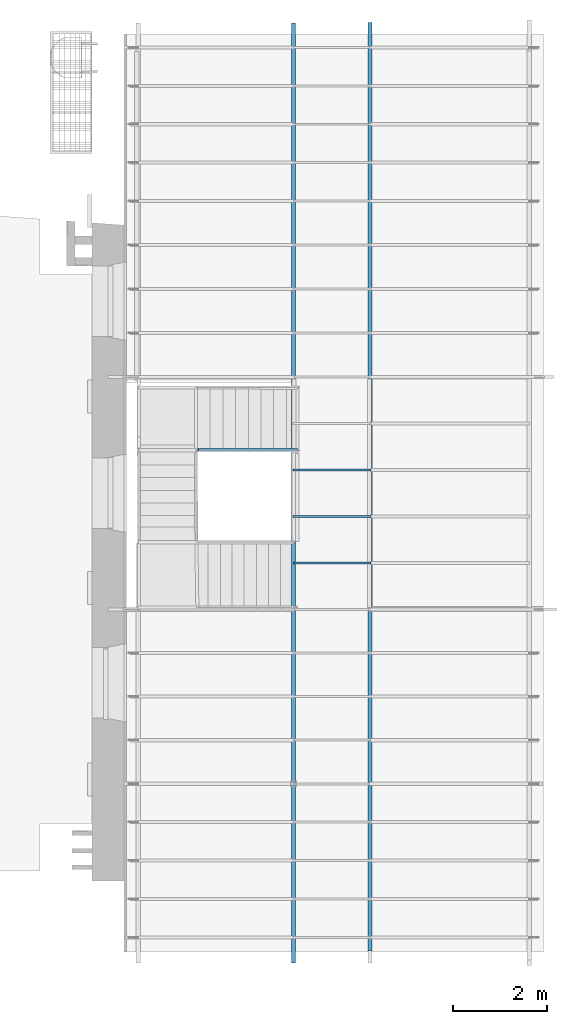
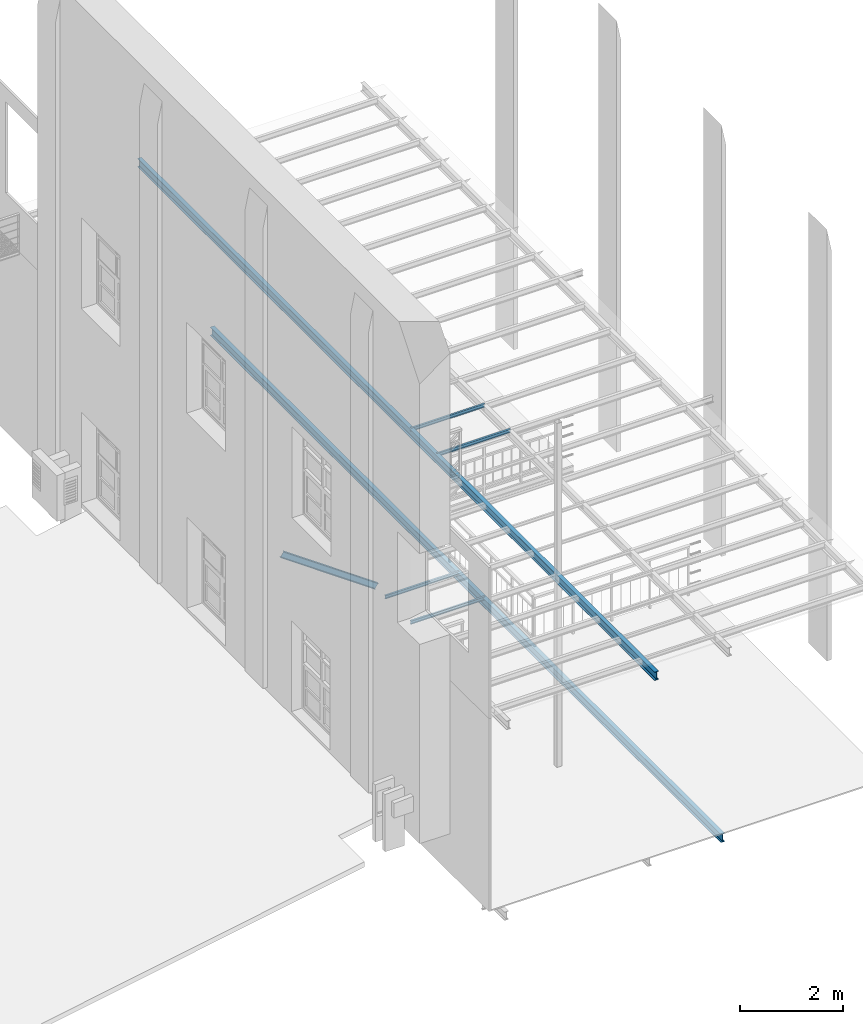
# One storey, part 13 of 33: 7 beams.
"""IFC2X3 building model written with IfcOpenShell, lengths in metres."""

import ifcopenshell
import ifcopenshell.guid

model = None  # the IFC model being written
_history = None  # IfcOwnerHistory: only IFC2X3 demands one
_inside = {}  # id of a spatial element -> (the spatial element, [elements in it])
_under = {}  # id of a project, library or spatial element -> (it, [spatial elements below it])
_declared = {}  # id of a project -> (the project, [libraries it declares])
_typed = {}  # id of a type object -> (the type object, [elements of that type])
_made_of = {}  # id of a material, layer set ... -> (it, [elements and type objects made of it])


def new_model(schema):
    """Start an empty IFC model of exactly this schema.

    Asked for "IFC4X3", IfcOpenShell would pick the latest addendum, in which some entities
    have other attributes; the version numbers below select the first issue.
    IFC2X3 requires an IfcOwnerHistory on every rooted entity: one is made here for all.
    """
    global model, _history
    if schema == "IFC4X3":
        model = ifcopenshell.file(schema_version=(4, 3, 0, 0))
    else:
        model = ifcopenshell.file(schema=schema)
    _inside.clear()
    _under.clear()
    _declared.clear()
    _typed.clear()
    _made_of.clear()
    _history = None
    if model.schema == "IFC2X3":
        org = make("IfcOrganization", Name="unknown")
        user = make(
            "IfcPersonAndOrganization",
            ThePerson=make("IfcPerson", FamilyName="unknown"),
            TheOrganization=org,
        )
        app = make(
            "IfcApplication",
            ApplicationDeveloper=org,
            Version="unknown",
            ApplicationFullName="unknown",
            ApplicationIdentifier="unknown",
        )
        _history = make(
            "IfcOwnerHistory",
            OwningUser=user,
            OwningApplication=app,
            ChangeAction="ADDED",
            CreationDate=0,
        )
    return model


def make(cls, **values):
    """One entity of the class cls with the attributes given. An attribute that is None is left unset."""
    return model.create_entity(
        cls, **{name: value for name, value in values.items() if value is not None}
    )


def entity(cls, *values):
    """Any entity or typed value of the class cls, its attributes in the order of the schema. None: left unset."""
    e = model.create_entity(cls)
    for i, value in enumerate(values):
        if value is not None:
            e[i] = value
    return e


def rooted(cls, **values):
    """An entity with a GlobalId (a new one), such as an element, a storey or a relation."""
    return make(cls, GlobalId=ifcopenshell.guid.new(), OwnerHistory=_history, **values)


def si_unit(unit_type, name, prefix=None):
    """IfcSIUnit, for example si_unit("LENGTHUNIT", "METRE", prefix="MILLI")."""
    return make("IfcSIUnit", UnitType=unit_type, Prefix=prefix, Name=name)


def converted_unit(unit_type, name, factor, base, dimensions=None, offset=None):
    """IfcConversionBasedUnit, such as the inch: factor (a typed value) times the base unit."""
    return make(
        "IfcConversionBasedUnit"
        if offset is None
        else "IfcConversionBasedUnitWithOffset",
        ConversionOffset=offset,
        Dimensions=None
        if dimensions is None
        else entity("IfcDimensionalExponents", *dimensions),
        UnitType=unit_type,
        Name=name,
        ConversionFactor=make(
            "IfcMeasureWithUnit", ValueComponent=factor, UnitComponent=base
        ),
    )


def derived_unit(unit_type, elements):
    """IfcDerivedUnit: a product of units, each with its exponent."""
    return make(
        "IfcDerivedUnit",
        Elements=[
            make("IfcDerivedUnitElement", Unit=unit, Exponent=power)
            for unit, power in elements
        ],
        UnitType=unit_type,
    )


def assignment(units):
    """IfcUnitAssignment: the units of a project."""
    return None if units is None else make("IfcUnitAssignment", Units=units)


def point(xyz):
    """IfcCartesianPoint."""
    return None if xyz is None else make("IfcCartesianPoint", Coordinates=xyz)


def direction(xyz):
    """IfcDirection."""
    return None if xyz is None else make("IfcDirection", DirectionRatios=xyz)


def frame(location, z_axis=None, x_axis=None):
    """IfcAxis2Placement3D, a coordinate frame: its origin and axes. An axis left out is left unset."""
    return make(
        "IfcAxis2Placement3D",
        Location=point(location),
        Axis=direction(z_axis),
        RefDirection=direction(x_axis),
    )


def frame_2d(location, x_axis=None):
    """IfcAxis2Placement2D, a coordinate frame in the plane: its origin and x axis."""
    return make(
        "IfcAxis2Placement2D", Location=point(location), RefDirection=direction(x_axis)
    )


def origin():
    """The frame at (0, 0, 0) with its axes left unset."""
    return frame((0.0, 0.0, 0.0))


def place(relative_to, where):
    """IfcLocalPlacement: puts the frame where relative to a parent placement (None: the world)."""
    return make(
        "IfcLocalPlacement", PlacementRelTo=relative_to, RelativePlacement=where
    )


def context(
    kind, dimensions, precision=None, world=None, true_north=None, identifier=None
):
    """IfcGeometricRepresentationContext, for example the 3D "Model" context."""
    return make(
        "IfcGeometricRepresentationContext",
        ContextIdentifier=identifier,
        ContextType=kind,
        CoordinateSpaceDimension=dimensions,
        Precision=precision,
        WorldCoordinateSystem=world,
        TrueNorth=true_north,
    )


def subcontext(parent, identifier, kind, view, scale=None):
    """IfcGeometricRepresentationSubContext, for example "Body" below "Model"."""
    return make(
        "IfcGeometricRepresentationSubContext",
        ContextIdentifier=identifier,
        ContextType=kind,
        ParentContext=parent,
        TargetScale=scale,
        TargetView=view,
    )


def project(units=None, contexts=None):
    """IfcProject with its units and contexts."""
    return rooted(
        "IfcProject",
        Name="project",
        RepresentationContexts=contexts,
        UnitsInContext=assignment(units),
    )


def spatial(cls, under=None, at=None, **own):
    """A site, building, storey or space (cls), placed at a placement, below another one or the project."""
    s = rooted(cls, ObjectPlacement=at, **own)
    if under is not None:
        _under.setdefault(under.id(), (under, []))[1].append(s)
    return s


def polyline(points):
    """IfcPolyline through the points."""
    return make("IfcPolyline", Points=[point(p) for p in points])


def circle_curve(where, radius):
    """IfcCircle in the frame where."""
    return make("IfcCircle", Position=where, Radius=radius)


def parameter(value):
    """IfcParameterValue: where a trimmed curve begins or ends, as a parameter of its basis curve."""
    return model.create_entity("IfcParameterValue", value)


def trimmed(basis, trim1, trim2, sense, master):
    """IfcTrimmedCurve: the piece of a basis curve between two trims."""
    return make(
        "IfcTrimmedCurve",
        BasisCurve=basis,
        Trim1=trim1,
        Trim2=trim2,
        SenseAgreement=sense,
        MasterRepresentation=master,
    )


def segment(curve, same_sense, transition):
    """IfcCompositeCurveSegment."""
    return make(
        "IfcCompositeCurveSegment",
        Transition=transition,
        SameSense=same_sense,
        ParentCurve=curve,
    )


def composite_curve(segments, self_intersect=None):
    """IfcCompositeCurve: segments joined end to end."""
    return make("IfcCompositeCurve", Segments=segments, SelfIntersect=self_intersect)


def outline(outer, holes=None, kind="AREA"):
    """IfcArbitraryClosedProfileDef: a profile drawn as a closed curve; with holes, ...WithVoids."""
    if holes is None:
        return make("IfcArbitraryClosedProfileDef", ProfileType=kind, OuterCurve=outer)
    return make(
        "IfcArbitraryProfileDefWithVoids",
        ProfileType=kind,
        OuterCurve=outer,
        InnerCurves=holes,
    )


def extrude(swept, where, along, depth):
    """IfcExtrudedAreaSolid: the profile swept, set in the frame where, extruded along a direction by depth."""
    return make(
        "IfcExtrudedAreaSolid",
        SweptArea=swept,
        Position=where,
        ExtrudedDirection=direction(along),
        Depth=depth,
    )


def shape(context_of_items, identifier, shape_type, items):
    """IfcShapeRepresentation: the items that make up one representation, for example the "Body"."""
    return make(
        "IfcShapeRepresentation",
        ContextOfItems=context_of_items,
        RepresentationIdentifier=identifier,
        RepresentationType=shape_type,
        Items=items,
    )


def material(Name=None, Category=None):
    """IfcMaterial."""
    return make("IfcMaterial", Name=Name, Category=Category)


def made_of(thing, what):
    """Note that an element or type object is made of a material, layer set ...; save() writes the relation."""
    if what is not None:
        _made_of.setdefault(what.id(), (what, []))[1].append(thing)
    return thing


def type_object(cls, material=None, **own):
    """A type object (cls), such as IfcWallType, which elements share."""
    return made_of(rooted(cls, **own), material)


def element(
    cls,
    number,
    at=None,
    inside=None,
    cuts=None,
    type_object=None,
    material=None,
    context=None,
    identifier="Body",
    shape_type=None,
    held_by="IfcProductDefinitionShape",
    body=None,
    shapes=None,
    **own,
):
    """One element of the class cls, such as IfcWall. Its Tag is "e" and its number.

    at: its placement. inside: the storey or other place that contains it. cuts: it is an
    opening in that element (IfcRelVoidsElement). A single representation is given by context,
    identifier, shape_type and body (its items); several are given by shapes. held_by: the class
    of the entity that holds the representations. save() writes the other relations.
    """
    e = rooted(cls, Tag="e%d" % number, ObjectPlacement=at, **own)
    if body is not None:
        shapes = [shape(context, identifier, shape_type, body)]
    if shapes is not None:
        e.Representation = make(held_by, Representations=shapes)
    if inside is not None:
        _inside.setdefault(inside.id(), (inside, []))[1].append(e)
    if cuts is not None:
        rooted(
            "IfcRelVoidsElement", RelatingBuildingElement=cuts, RelatedOpeningElement=e
        )
    if type_object is not None:
        _typed.setdefault(type_object.id(), (type_object, []))[1].append(e)
    return made_of(e, material)


def aggregate(whole, parts):
    """IfcRelAggregates: a whole, such as a stair, and the parts it consists of."""
    return rooted("IfcRelAggregates", RelatingObject=whole, RelatedObjects=parts)


def save(model, path):
    """Write the relations noted so far, then the file.

    IfcRelAggregates (storeys below a building ...), IfcRelContainedInSpatialStructure (elements
    in a storey), IfcRelDefinesByType, IfcRelAssociatesMaterial and IfcRelDeclares: one each for
    every whole, place, type object, material and project.
    """
    for whole, parts in _under.values():
        aggregate(whole, parts)
    for where, things in _inside.values():
        rooted(
            "IfcRelContainedInSpatialStructure",
            RelatedElements=things,
            RelatingStructure=where,
        )
    for kind, things in _typed.values():
        rooted("IfcRelDefinesByType", RelatedObjects=things, RelatingType=kind)
    for what, things in _made_of.values():
        rooted("IfcRelAssociatesMaterial", RelatedObjects=things, RelatingMaterial=what)
    for by, libraries in _declared.values():
        rooted("IfcRelDeclares", RelatingContext=by, RelatedDefinitions=libraries)
    model.write(path)


model = new_model("IFC2X3")

# Units and contexts
model_context = context("Model", 3, precision=1e-05, world=origin(), true_north=direction((6.12303176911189e-17, 1.0)))
body_context = subcontext(model_context, "Body", "Model", "MODEL_VIEW")
ifc_project = project(units=[si_unit("LENGTHUNIT", "METRE"), si_unit("AREAUNIT", "SQUARE_METRE"), si_unit("VOLUMEUNIT", "CUBIC_METRE"), converted_unit("PLANEANGLEUNIT", "DEGREE", entity("IfcRatioMeasure", 0.0174532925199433), si_unit("PLANEANGLEUNIT", "RADIAN"), dimensions=[0, 0, 0, 0, 0, 0, 0]), si_unit("MASSUNIT", "GRAM", prefix="KILO"), derived_unit("MASSDENSITYUNIT", [(si_unit("MASSUNIT", "GRAM", prefix="KILO"), 1), (si_unit("LENGTHUNIT", "METRE"), -3)]), derived_unit("MOMENTOFINERTIAUNIT", [(si_unit("LENGTHUNIT", "METRE"), 4)]), si_unit("TIMEUNIT", "SECOND"), si_unit("FREQUENCYUNIT", "HERTZ"), si_unit("THERMODYNAMICTEMPERATUREUNIT", "DEGREE_CELSIUS"), derived_unit("THERMALTRANSMITTANCEUNIT", [(si_unit("MASSUNIT", "GRAM", prefix="KILO"), 1), (si_unit("THERMODYNAMICTEMPERATUREUNIT", "KELVIN"), -1), (si_unit("TIMEUNIT", "SECOND"), -3)]), derived_unit("VOLUMETRICFLOWRATEUNIT", [(si_unit("LENGTHUNIT", "METRE"), 3), (si_unit("TIMEUNIT", "SECOND"), -1)]), si_unit("ELECTRICCURRENTUNIT", "AMPERE"), si_unit("ELECTRICVOLTAGEUNIT", "VOLT"), si_unit("POWERUNIT", "WATT"), si_unit("FORCEUNIT", "NEWTON", prefix="KILO"), si_unit("ILLUMINANCEUNIT", "LUX"), si_unit("LUMINOUSFLUXUNIT", "LUMEN"), si_unit("LUMINOUSINTENSITYUNIT", "CANDELA"), derived_unit("USERDEFINED", [(si_unit("MASSUNIT", "GRAM", prefix="KILO"), -1), (si_unit("LENGTHUNIT", "METRE"), -2), (si_unit("TIMEUNIT", "SECOND"), 3), (si_unit("LUMINOUSFLUXUNIT", "LUMEN"), 1)]), derived_unit("LINEARVELOCITYUNIT", [(si_unit("LENGTHUNIT", "METRE"), 1), (si_unit("TIMEUNIT", "SECOND"), -1)]), si_unit("PRESSUREUNIT", "PASCAL"), derived_unit("USERDEFINED", [(si_unit("LENGTHUNIT", "METRE"), -2), (si_unit("MASSUNIT", "GRAM", prefix="KILO"), 1), (si_unit("TIMEUNIT", "SECOND"), -2)]), derived_unit("LINEARFORCEUNIT", [(si_unit("MASSUNIT", "GRAM", prefix="KILO"), 1), (si_unit("LENGTHUNIT", "METRE"), 1), (si_unit("TIMEUNIT", "SECOND"), -2), (si_unit("LENGTHUNIT", "METRE"), -1)]), derived_unit("PLANARFORCEUNIT", [(si_unit("MASSUNIT", "GRAM", prefix="KILO"), 1), (si_unit("LENGTHUNIT", "METRE"), 1), (si_unit("TIMEUNIT", "SECOND"), -2), (si_unit("LENGTHUNIT", "METRE"), -2)])], contexts=[model_context])

# Site, building, storey
site_placement = place(None, origin())
site = spatial("IfcSite", under=ifc_project, at=site_placement, Name="Superficie", CompositionType="ELEMENT")
building_placement = place(site_placement, origin())
building = spatial("IfcBuilding", under=site, at=building_placement, Name="Telegestiones", CompositionType="ELEMENT")
storey_placement = place(building_placement, frame((0.0, 0.0, 4.94)))
storey = spatial("IfcBuildingStorey", under=building, at=storey_placement, Name="Nivel 1_NPT", CompositionType="ELEMENT", Elevation=4.94)

# Beams
ifc_material = material(Name="Metal - Acero - 345 MPa")
beam_type_1 = type_object("IfcBeamType", Name="IPN - Secciones en I con alas cónicas:IPN 200", PredefinedType="NOTDEFINED")
beam_1_placement = place(storey_placement, frame((11.2748126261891, 13.993607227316, 0.0), z_axis=(0.0, 0.0, 1.0), x_axis=(0.0, -1.0, 0.0)))
element("IfcBeam", 1, at=beam_1_placement, inside=storey, type_object=beam_type_1, material=ifc_material, Name="IPN - Secciones en I con alas cónicas:IPN 200", ObjectType="IPN - Secciones en I con alas cónicas:IPN 200", context=body_context, shape_type="SweptSolid", body=[
    extrude(outline(composite_curve([segment(polyline([(0.0957638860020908, -0.0449999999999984), (0.100000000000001, -0.0449999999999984)]), True, "CONTINUOUS"), segment(polyline([(0.100000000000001, -0.0449999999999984), (0.100000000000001, 0.0450000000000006)]), True, "CONTINUOUS"), segment(polyline([(0.100000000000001, 0.0450000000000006), (0.0957638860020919, 0.0450000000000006)]), True, "CONTINUOUS"), segment(trimmed(circle_curve(frame_2d((0.0957638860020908, 0.0405000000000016), x_axis=(0.0, 1.0)), 0.0044999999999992), [parameter(0.0)], [parameter(82.0303896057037)], True, "PARAMETER"), True, "CONTINUOUS"), segment(polyline([(0.0913073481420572, 0.0411239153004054), (0.0869794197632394, 0.0102101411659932)]), True, "CONTINUOUS"), segment(trimmed(circle_curve(frame_2d((0.0795518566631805, 0.0112500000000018), x_axis=(0.990341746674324, -0.138647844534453)), 0.00750000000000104), [parameter(277.969610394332)], [parameter(0.0)], True, "PARAMETER"), False, "CONTINUOUS"), segment(polyline([(0.0795518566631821, 0.00375000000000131), (-0.079551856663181, 0.00375000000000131)]), True, "CONTINUOUS"), segment(trimmed(circle_curve(frame_2d((-0.0795518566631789, 0.0112500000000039), x_axis=(0.0, -1.0)), 0.00750000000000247), [parameter(277.969610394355)], [parameter(0.0)], True, "PARAMETER"), False, "CONTINUOUS"), segment(polyline([(-0.0869794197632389, 0.0102101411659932), (-0.0913073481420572, 0.0411239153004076)]), True, "CONTINUOUS"), segment(trimmed(circle_curve(frame_2d((-0.0957638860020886, 0.0405000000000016), x_axis=(0.990341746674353, 0.138647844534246)), 0.00449999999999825), [parameter(0.0)], [parameter(82.0303896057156)], True, "PARAMETER"), True, "CONTINUOUS"), segment(polyline([(-0.0957638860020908, 0.0450000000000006), (-0.0999999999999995, 0.0450000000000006)]), True, "CONTINUOUS"), segment(polyline([(-0.0999999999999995, 0.0450000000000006), (-0.0999999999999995, -0.0449999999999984)]), True, "CONTINUOUS"), segment(polyline([(-0.0999999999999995, -0.0449999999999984), (-0.0957638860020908, -0.0449999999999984)]), True, "CONTINUOUS"), segment(trimmed(circle_curve(frame_2d((-0.0957638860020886, -0.0404999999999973), x_axis=(0.0, -1.0)), 0.00449999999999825), [parameter(0.0)], [parameter(82.0303896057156)], True, "PARAMETER"), True, "CONTINUOUS"), segment(polyline([(-0.0913073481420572, -0.0411239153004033), (-0.0869794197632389, -0.0102101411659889)]), True, "CONTINUOUS"), segment(trimmed(circle_curve(frame_2d((-0.0795518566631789, -0.0112499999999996), x_axis=(-0.990341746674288, 0.138647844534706)), 0.00750000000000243), [parameter(277.969610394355)], [parameter(0.0)], True, "PARAMETER"), False, "CONTINUOUS"), segment(polyline([(-0.079551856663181, -0.00374999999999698), (0.079551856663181, -0.00374999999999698)]), True, "CONTINUOUS"), segment(trimmed(circle_curve(frame_2d((0.0795518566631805, -0.0112499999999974), x_axis=(0.0, 1.0)), 0.00750000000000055), [parameter(277.969610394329)], [parameter(0.0)], True, "PARAMETER"), False, "CONTINUOUS"), segment(polyline([(0.0869794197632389, -0.0102101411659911), (0.0913073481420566, -0.0411239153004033)]), True, "CONTINUOUS"), segment(trimmed(circle_curve(frame_2d((0.0957638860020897, -0.0404999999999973), x_axis=(-0.990341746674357, -0.138647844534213)), 0.00449999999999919), [parameter(0.0)], [parameter(82.0303896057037)], True, "PARAMETER"), True, "CONTINUOUS")], self_intersect=False)), frame((0.0, 0.0, -0.130000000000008), z_axis=(1.0, 0.0, 0.0), x_axis=(0.0, 0.0, -1.0)), (0.0, 0.0, 1.0), 19.783),
])
beam_2_placement = place(storey_placement, frame((9.64481262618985, 13.4536072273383, 4.56), z_axis=(0.0, 0.0, 1.0), x_axis=(0.0, -1.0, 0.0)))
element("IfcBeam", 2, at=beam_2_placement, inside=storey, type_object=beam_type_1, material=ifc_material, Name="IPN - Secciones en I con alas cónicas:IPN 200", ObjectType="IPN - Secciones en I con alas cónicas:IPN 200", context=body_context, shape_type="SweptSolid", body=[
    extrude(outline(composite_curve([segment(polyline([(0.0957638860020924, -0.0450000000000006), (0.100000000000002, -0.0450000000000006)]), True, "CONTINUOUS"), segment(polyline([(0.100000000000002, -0.0450000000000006), (0.100000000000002, 0.0449999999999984)]), True, "CONTINUOUS"), segment(polyline([(0.100000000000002, 0.0449999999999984), (0.0957638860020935, 0.0449999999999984)]), True, "CONTINUOUS"), segment(trimmed(circle_curve(frame_2d((0.0957638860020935, 0.0404999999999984), x_axis=(0.0, 1.0)), 0.00450000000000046), [parameter(0.0)], [parameter(82.0303896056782)], True, "PARAMETER"), True, "CONTINUOUS"), segment(polyline([(0.0913073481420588, 0.0411239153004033), (0.0869794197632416, 0.01021014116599)]), True, "CONTINUOUS"), segment(trimmed(circle_curve(frame_2d((0.0795518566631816, 0.0112500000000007), x_axis=(0.990341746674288, -0.138647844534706)), 0.00750000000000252), [parameter(277.969610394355)], [parameter(0.0)], True, "PARAMETER"), False, "CONTINUOUS"), segment(polyline([(0.0795518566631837, 0.00374999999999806), (-0.0795518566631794, 0.00374999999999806)]), True, "CONTINUOUS"), segment(trimmed(circle_curve(frame_2d((-0.0795518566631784, 0.0112500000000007), x_axis=(0.0, -1.0)), 0.00750000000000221), [parameter(277.96961039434)], [parameter(0.0)], True, "PARAMETER"), False, "CONTINUOUS"), segment(polyline([(-0.0869794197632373, 0.01021014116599), (-0.0913073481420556, 0.0411239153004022)]), True, "CONTINUOUS"), segment(trimmed(circle_curve(frame_2d((-0.0957638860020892, 0.0404999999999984), x_axis=(0.990341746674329, 0.138647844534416)), 0.00450000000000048), [parameter(0.0)], [parameter(82.0303896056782)], True, "PARAMETER"), True, "CONTINUOUS"), segment(polyline([(-0.0957638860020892, 0.0449999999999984), (-0.0999999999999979, 0.0449999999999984)]), True, "CONTINUOUS"), segment(polyline([(-0.0999999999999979, 0.0449999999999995), (-0.0999999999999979, -0.0450000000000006)]), True, "CONTINUOUS"), segment(polyline([(-0.0999999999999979, -0.0450000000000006), (-0.0957638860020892, -0.0450000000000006)]), True, "CONTINUOUS"), segment(trimmed(circle_curve(frame_2d((-0.0957638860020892, -0.0405000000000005), x_axis=(0.0, -1.0)), 0.00450000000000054), [parameter(0.0)], [parameter(82.0303896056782)], True, "PARAMETER"), True, "CONTINUOUS"), segment(polyline([(-0.0913073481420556, -0.0411239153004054), (-0.0869794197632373, -0.0102101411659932)]), True, "CONTINUOUS"), segment(trimmed(circle_curve(frame_2d((-0.0795518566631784, -0.0112500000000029), x_axis=(-0.990341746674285, 0.138647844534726)), 0.00750000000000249), [parameter(277.969610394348)], [parameter(0.0)], True, "PARAMETER"), False, "CONTINUOUS"), segment(polyline([(-0.0795518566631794, -0.00375000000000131), (0.0795518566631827, -0.00375000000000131)]), True, "CONTINUOUS"), segment(trimmed(circle_curve(frame_2d((0.0795518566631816, -0.0112500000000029), x_axis=(0.0, 1.0)), 0.00750000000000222), [parameter(277.96961039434)], [parameter(0.0)], True, "PARAMETER"), False, "CONTINUOUS"), segment(polyline([(0.0869794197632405, -0.0102101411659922), (0.0913073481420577, -0.0411239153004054)]), True, "CONTINUOUS"), segment(trimmed(circle_curve(frame_2d((0.0957638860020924, -0.0405000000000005), x_axis=(-0.990341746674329, -0.138647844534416)), 0.00450000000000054), [parameter(0.0)], [parameter(82.0303896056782)], True, "PARAMETER"), True, "CONTINUOUS")], self_intersect=False)), frame((-0.529999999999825, 0.0, -0.130000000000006), z_axis=(1.0, 0.0, 0.0), x_axis=(0.0, 0.0, -1.0)), (0.0, 0.0, 1.0), 20.0299999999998),
])
beam_type_2 = type_object("IfcBeamType", Name="IPN - Secciones en I con alas cónicas:IPN 140", PredefinedType="NOTDEFINED")
beam_3_placement = place(storey_placement, frame((9.69756272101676, 4.87759244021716, -0.00569186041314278), z_axis=(0.575493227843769, -0.000740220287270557, 0.817806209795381), x_axis=(-0.817805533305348, 0.00105189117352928, 0.575493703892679)))
element("IfcBeam", 3, at=beam_3_placement, inside=storey, type_object=beam_type_2, material=ifc_material, Name="IPN - Secciones en I con alas cónicas:IPN 140", ObjectType="IPN - Secciones en I con alas cónicas:IPN 140", context=body_context, shape_type="SweptSolid", body=[
    extrude(outline(composite_curve([segment(polyline([(-0.0700000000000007, -0.0330000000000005), (-0.0666671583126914, -0.0330000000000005)]), True, "CONTINUOUS"), segment(trimmed(circle_curve(frame_2d((-0.0666671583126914, -0.0296000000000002), x_axis=(0.0, -1.0)), 0.00339999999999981), [parameter(0.0)], [parameter(82.0303896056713)], True, "PARAMETER"), True, "CONTINUOUS"), segment(polyline([(-0.0632999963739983, -0.030071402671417), (-0.0601763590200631, -0.00775970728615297)]), True, "CONTINUOUS"), segment(trimmed(circle_curve(frame_2d((-0.0545314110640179, -0.00854999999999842), x_axis=(-0.990341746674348, 0.138647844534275)), 0.00569999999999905), [parameter(277.969610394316)], [parameter(0.0)], True, "PARAMETER"), False, "CONTINUOUS"), segment(polyline([(-0.0545314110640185, -0.00284999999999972), (0.054531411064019, -0.00284999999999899)]), True, "CONTINUOUS"), segment(trimmed(circle_curve(frame_2d((0.054531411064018, -0.00854999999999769), x_axis=(0.0, 1.0)), 0.00569999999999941), [parameter(277.969610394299)], [parameter(0.0)], True, "PARAMETER"), False, "CONTINUOUS"), segment(polyline([(0.0601763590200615, -0.00775970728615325), (0.0632999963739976, -0.0300714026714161)]), True, "CONTINUOUS"), segment(trimmed(circle_curve(frame_2d((0.0666671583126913, -0.0295999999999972), x_axis=(-0.990341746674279, -0.138647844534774)), 0.00340000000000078), [parameter(0.0)], [parameter(82.0303896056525)], True, "PARAMETER"), True, "CONTINUOUS"), segment(polyline([(0.0666671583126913, -0.0329999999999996), (0.0699999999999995, -0.0329999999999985)]), True, "CONTINUOUS"), segment(polyline([(0.07, -0.0329999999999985), (0.069999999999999, 0.0330000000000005)]), True, "CONTINUOUS"), segment(polyline([(0.0699999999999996, 0.0329999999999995), (0.0666671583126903, 0.0330000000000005)]), True, "CONTINUOUS"), segment(trimmed(circle_curve(frame_2d((0.0666671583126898, 0.0295999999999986), x_axis=(0.0, 1.0)), 0.00340000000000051), [parameter(0.0)], [parameter(82.0303896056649)], True, "PARAMETER"), True, "CONTINUOUS"), segment(polyline([(0.0632999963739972, 0.0300714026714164), (0.0601763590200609, 0.00775970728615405)]), True, "CONTINUOUS"), segment(trimmed(circle_curve(frame_2d((0.0545314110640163, 0.00855000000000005), x_axis=(0.990341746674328, -0.138647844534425)), 0.00570000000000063), [parameter(277.969610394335)], [parameter(0.0)], True, "PARAMETER"), False, "CONTINUOUS"), segment(polyline([(0.0545314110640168, 0.00285000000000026), (-0.0545314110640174, 0.00284999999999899)]), True, "CONTINUOUS"), segment(trimmed(circle_curve(frame_2d((-0.054531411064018, 0.00854999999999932), x_axis=(0.0, -1.0)), 0.00569999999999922), [parameter(277.969610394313)], [parameter(0.0)], True, "PARAMETER"), False, "CONTINUOUS"), segment(polyline([(-0.0601763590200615, 0.00775970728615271), (-0.0632999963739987, 0.0300714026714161)]), True, "CONTINUOUS"), segment(trimmed(circle_curve(frame_2d((-0.0666671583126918, 0.0295999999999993), x_axis=(0.99034174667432, 0.13864784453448)), 0.00340000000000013), [parameter(0.0)], [parameter(82.030389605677)], True, "PARAMETER"), True, "CONTINUOUS"), segment(polyline([(-0.0666671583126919, 0.0329999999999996), (-0.0700000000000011, 0.0329999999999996)]), True, "CONTINUOUS"), segment(polyline([(-0.0700000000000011, 0.0329999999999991), (-0.0700000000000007, -0.0329999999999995)]), True, "CONTINUOUS")], self_intersect=False)), frame((-0.0376567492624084, 0.0, -0.0700000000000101), z_axis=(1.0, 0.0, 0.0), x_axis=(0.0, 0.0, -1.0)), (0.0, 0.0, 1.0), 2.58261521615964),
])
beam_type_3 = type_object("IfcBeamType", Name="IPN - Secciones en I con alas cónicas:IPN 80", PredefinedType="NOTDEFINED")
beam_4_placement = place(storey_placement, frame((9.64481262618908, 4.45520196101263, 0.0)))
element("IfcBeam", 4, at=beam_4_placement, inside=storey, type_object=beam_type_3, material=ifc_material, Name="IPN - Secciones en I con alas cónicas:IPN 80", ObjectType="IPN - Secciones en I con alas cónicas:IPN 80", context=body_context, shape_type="SweptSolid", body=[
    extrude(outline(composite_curve([segment(polyline([(0.0375704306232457, -0.021000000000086), (0.0399999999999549, -0.021000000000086)]), True, "CONTINUOUS"), segment(polyline([(0.0399999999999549, -0.0210000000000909), (0.0400000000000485, 0.0209999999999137)]), True, "CONTINUOUS"), segment(polyline([(0.0400000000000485, 0.0209999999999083), (0.0375704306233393, 0.0209999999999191)]), True, "CONTINUOUS"), segment(trimmed(circle_curve(frame_2d((0.0375704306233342, 0.0186999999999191), x_axis=(0.0, 1.0)), 0.00229999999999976), [parameter(0.0)], [parameter(82.0303896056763)], True, "PARAMETER"), True, "CONTINUOUS"), segment(polyline([(0.0352926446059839, 0.0190188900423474), (0.0333732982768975, 0.00530927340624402)]), True, "CONTINUOUS"), segment(trimmed(circle_curve(frame_2d((0.0295109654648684, 0.00584999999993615), x_axis=(0.990341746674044, -0.138647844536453)), 0.00389999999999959), [parameter(277.969610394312)], [parameter(0.0)], True, "PARAMETER"), False, "CONTINUOUS"), segment(polyline([(0.0295109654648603, 0.00194999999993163), (-0.0295109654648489, 0.00195000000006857)]), True, "CONTINUOUS"), segment(trimmed(circle_curve(frame_2d((-0.0295109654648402, 0.00585000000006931), x_axis=(0.0, -1.0)), 0.00390000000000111), [parameter(277.969610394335)], [parameter(0.0)], True, "PARAMETER"), False, "CONTINUOUS"), segment(polyline([(-0.0333732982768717, 0.00530927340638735), (-0.035292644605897, 0.0190188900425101)]), True, "CONTINUOUS"), segment(trimmed(circle_curve(frame_2d((-0.0375704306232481, 0.0187000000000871), x_axis=(0.990341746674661, 0.138647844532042)), 0.00229999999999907), [parameter(0.0)], [parameter(82.0303896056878)], True, "PARAMETER"), True, "CONTINUOUS"), segment(polyline([(-0.037570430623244, 0.0210000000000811), (-0.0399999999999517, 0.0210000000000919)]), True, "CONTINUOUS"), segment(polyline([(-0.0399999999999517, 0.021000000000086), (-0.0400000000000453, -0.0209999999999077)]), True, "CONTINUOUS"), segment(polyline([(-0.0400000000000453, -0.0209999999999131), (-0.0375704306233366, -0.0209999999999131)]), True, "CONTINUOUS"), segment(trimmed(circle_curve(frame_2d((-0.0375704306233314, -0.0186999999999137), x_axis=(0.0, -1.0)), 0.00229999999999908), [parameter(0.0)], [parameter(82.0303896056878)], True, "PARAMETER"), True, "CONTINUOUS"), segment(polyline([(-0.0352926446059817, -0.0190188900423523), (-0.0333732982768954, -0.00530927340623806)]), True, "CONTINUOUS"), segment(trimmed(circle_curve(frame_2d((-0.0295109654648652, -0.0058499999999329), x_axis=(-0.990341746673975, 0.13864784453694)), 0.00390000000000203), [parameter(277.969610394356)], [parameter(0.0)], True, "PARAMETER"), False, "CONTINUOUS"), segment(polyline([(-0.0295109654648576, -0.0019499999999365), (0.0295109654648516, -0.00195000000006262)]), True, "CONTINUOUS"), segment(trimmed(circle_curve(frame_2d((0.0295109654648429, -0.00585000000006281), x_axis=(0.0, 1.0)), 0.00389999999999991), [parameter(277.96961039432)], [parameter(0.0)], True, "PARAMETER"), False, "CONTINUOUS"), segment(polyline([(0.0333732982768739, -0.00530927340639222), (0.0352926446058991, -0.0190188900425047)]), True, "CONTINUOUS"), segment(trimmed(circle_curve(frame_2d((0.0375704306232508, -0.0187000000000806), x_axis=(-0.990341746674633, -0.138647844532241)), 0.00229999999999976), [parameter(0.0)], [parameter(82.0303896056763)], True, "PARAMETER"), True, "CONTINUOUS")], self_intersect=False)), frame((-0.0149999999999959, 0.0, -0.0700000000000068), z_axis=(1.0, 0.0, 0.0), x_axis=(0.0, 0.0, -1.0)), (0.0, 0.0, 1.0), 1.66),
])
beam_5_placement = place(storey_placement, frame((9.64481262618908, 3.46499932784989, 0.0)))
element("IfcBeam", 5, at=beam_5_placement, inside=storey, type_object=beam_type_3, material=ifc_material, Name="IPN - Secciones en I con alas cónicas:IPN 80", ObjectType="IPN - Secciones en I con alas cónicas:IPN 80", context=body_context, shape_type="SweptSolid", body=[
    extrude(outline(composite_curve([segment(polyline([(0.0375704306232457, -0.021000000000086), (0.0399999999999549, -0.021000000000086)]), True, "CONTINUOUS"), segment(polyline([(0.0399999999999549, -0.0210000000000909), (0.0400000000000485, 0.0209999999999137)]), True, "CONTINUOUS"), segment(polyline([(0.0400000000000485, 0.0209999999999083), (0.0375704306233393, 0.0209999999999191)]), True, "CONTINUOUS"), segment(trimmed(circle_curve(frame_2d((0.0375704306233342, 0.0186999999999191), x_axis=(0.0, 1.0)), 0.00229999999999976), [parameter(0.0)], [parameter(82.0303896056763)], True, "PARAMETER"), True, "CONTINUOUS"), segment(polyline([(0.0352926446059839, 0.0190188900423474), (0.0333732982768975, 0.00530927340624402)]), True, "CONTINUOUS"), segment(trimmed(circle_curve(frame_2d((0.0295109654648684, 0.00584999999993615), x_axis=(0.990341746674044, -0.138647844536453)), 0.00389999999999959), [parameter(277.969610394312)], [parameter(0.0)], True, "PARAMETER"), False, "CONTINUOUS"), segment(polyline([(0.0295109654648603, 0.00194999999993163), (-0.0295109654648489, 0.00195000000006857)]), True, "CONTINUOUS"), segment(trimmed(circle_curve(frame_2d((-0.0295109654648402, 0.00585000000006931), x_axis=(0.0, -1.0)), 0.00390000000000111), [parameter(277.969610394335)], [parameter(0.0)], True, "PARAMETER"), False, "CONTINUOUS"), segment(polyline([(-0.0333732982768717, 0.00530927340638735), (-0.035292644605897, 0.0190188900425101)]), True, "CONTINUOUS"), segment(trimmed(circle_curve(frame_2d((-0.0375704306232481, 0.0187000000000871), x_axis=(0.990341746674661, 0.138647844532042)), 0.00229999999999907), [parameter(0.0)], [parameter(82.0303896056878)], True, "PARAMETER"), True, "CONTINUOUS"), segment(polyline([(-0.037570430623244, 0.0210000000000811), (-0.0399999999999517, 0.0210000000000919)]), True, "CONTINUOUS"), segment(polyline([(-0.0399999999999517, 0.021000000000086), (-0.0400000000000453, -0.0209999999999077)]), True, "CONTINUOUS"), segment(polyline([(-0.0400000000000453, -0.0209999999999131), (-0.0375704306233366, -0.0209999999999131)]), True, "CONTINUOUS"), segment(trimmed(circle_curve(frame_2d((-0.0375704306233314, -0.0186999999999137), x_axis=(0.0, -1.0)), 0.00229999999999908), [parameter(0.0)], [parameter(82.0303896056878)], True, "PARAMETER"), True, "CONTINUOUS"), segment(polyline([(-0.0352926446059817, -0.0190188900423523), (-0.0333732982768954, -0.00530927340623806)]), True, "CONTINUOUS"), segment(trimmed(circle_curve(frame_2d((-0.0295109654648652, -0.0058499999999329), x_axis=(-0.990341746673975, 0.13864784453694)), 0.00390000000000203), [parameter(277.969610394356)], [parameter(0.0)], True, "PARAMETER"), False, "CONTINUOUS"), segment(polyline([(-0.0295109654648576, -0.0019499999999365), (0.0295109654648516, -0.00195000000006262)]), True, "CONTINUOUS"), segment(trimmed(circle_curve(frame_2d((0.0295109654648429, -0.00585000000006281), x_axis=(0.0, 1.0)), 0.00389999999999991), [parameter(277.96961039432)], [parameter(0.0)], True, "PARAMETER"), False, "CONTINUOUS"), segment(polyline([(0.0333732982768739, -0.00530927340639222), (0.0352926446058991, -0.0190188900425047)]), True, "CONTINUOUS"), segment(trimmed(circle_curve(frame_2d((0.0375704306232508, -0.0187000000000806), x_axis=(-0.990341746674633, -0.138647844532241)), 0.00229999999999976), [parameter(0.0)], [parameter(82.0303896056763)], True, "PARAMETER"), True, "CONTINUOUS")], self_intersect=False)), frame((-0.0149999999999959, 0.0, -0.0700000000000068), z_axis=(1.0, 0.0, 0.0), x_axis=(0.0, 0.0, -1.0)), (0.0, 0.0, 1.0), 1.66),
])
beam_6_placement = place(storey_placement, frame((9.64481262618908, 3.46499932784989, 4.56)))
element("IfcBeam", 6, at=beam_6_placement, inside=storey, type_object=beam_type_3, material=ifc_material, Name="IPN - Secciones en I con alas cónicas:IPN 80", ObjectType="IPN - Secciones en I con alas cónicas:IPN 80", context=body_context, shape_type="SweptSolid", body=[
    extrude(outline(composite_curve([segment(polyline([(0.0375704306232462, -0.0210000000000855), (0.0399999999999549, -0.0210000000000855)]), True, "CONTINUOUS"), segment(polyline([(0.0399999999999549, -0.0210000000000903), (0.0400000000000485, 0.0209999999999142)]), True, "CONTINUOUS"), segment(polyline([(0.0400000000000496, 0.0209999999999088), (0.0375704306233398, 0.0209999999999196)]), True, "CONTINUOUS"), segment(trimmed(circle_curve(frame_2d((0.0375704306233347, 0.0186999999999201), x_axis=(0.0, 1.0)), 0.00229999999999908), [parameter(0.0)], [parameter(82.0303896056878)], True, "PARAMETER"), True, "CONTINUOUS"), segment(polyline([(0.035292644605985, 0.019018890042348), (0.0333732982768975, 0.00530927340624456)]), True, "CONTINUOUS"), segment(trimmed(circle_curve(frame_2d((0.0295109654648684, 0.00584999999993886), x_axis=(0.990341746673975, -0.13864784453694)), 0.00390000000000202), [parameter(277.969610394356)], [parameter(0.0)], True, "PARAMETER"), False, "CONTINUOUS"), segment(polyline([(0.0295109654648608, 0.00194999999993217), (-0.0295109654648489, 0.00195000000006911)]), True, "CONTINUOUS"), segment(trimmed(circle_curve(frame_2d((-0.0295109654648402, 0.00585000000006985), x_axis=(0.0, -1.0)), 0.00390000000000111), [parameter(277.969610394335)], [parameter(0.0)], True, "PARAMETER"), False, "CONTINUOUS"), segment(polyline([(-0.0333732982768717, 0.00530927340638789), (-0.035292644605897, 0.0190188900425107)]), True, "CONTINUOUS"), segment(trimmed(circle_curve(frame_2d((-0.0375704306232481, 0.0187000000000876), x_axis=(0.990341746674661, 0.138647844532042)), 0.00229999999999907), [parameter(0.0)], [parameter(82.0303896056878)], True, "PARAMETER"), True, "CONTINUOUS"), segment(polyline([(-0.037570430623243, 0.0210000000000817), (-0.0399999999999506, 0.0210000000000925)]), True, "CONTINUOUS"), segment(polyline([(-0.0399999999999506, 0.0210000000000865), (-0.0400000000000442, -0.0209999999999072)]), True, "CONTINUOUS"), segment(polyline([(-0.0400000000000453, -0.0209999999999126), (-0.0375704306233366, -0.0209999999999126)]), True, "CONTINUOUS"), segment(trimmed(circle_curve(frame_2d((-0.0375704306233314, -0.0186999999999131), x_axis=(0.0, -1.0)), 0.00229999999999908), [parameter(0.0)], [parameter(82.0303896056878)], True, "PARAMETER"), True, "CONTINUOUS"), segment(polyline([(-0.0352926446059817, -0.0190188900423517), (-0.0333732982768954, -0.00530927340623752)]), True, "CONTINUOUS"), segment(trimmed(circle_curve(frame_2d((-0.0295109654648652, -0.00584999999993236), x_axis=(-0.990341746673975, 0.13864784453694)), 0.00390000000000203), [parameter(277.969610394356)], [parameter(0.0)], True, "PARAMETER"), False, "CONTINUOUS"), segment(polyline([(-0.0295109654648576, -0.00194999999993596), (0.0295109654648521, -0.00195000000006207)]), True, "CONTINUOUS"), segment(trimmed(circle_curve(frame_2d((0.0295109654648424, -0.00585000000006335), x_axis=(0.0, 1.0)), 0.00390000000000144), [parameter(277.969610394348)], [parameter(0.0)], True, "PARAMETER"), False, "CONTINUOUS"), segment(polyline([(0.0333732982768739, -0.00530927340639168), (0.0352926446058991, -0.0190188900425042)]), True, "CONTINUOUS"), segment(trimmed(circle_curve(frame_2d((0.0375704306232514, -0.0187000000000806), x_axis=(-0.990341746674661, -0.138647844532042)), 0.00229999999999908), [parameter(0.0)], [parameter(82.0303896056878)], True, "PARAMETER"), True, "CONTINUOUS")], self_intersect=False)), frame((-0.0149999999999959, 0.0, -0.0700000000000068), z_axis=(1.0, 0.0, 0.0), x_axis=(0.0, 0.0, -1.0)), (0.0, 0.0, 1.0), 1.66),
])
beam_7_placement = place(storey_placement, frame((9.64481262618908, 2.47479669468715, 4.56)))
element("IfcBeam", 7, at=beam_7_placement, inside=storey, type_object=beam_type_3, material=ifc_material, Name="IPN - Secciones en I con alas cónicas:IPN 80", ObjectType="IPN - Secciones en I con alas cónicas:IPN 80", context=body_context, shape_type="SweptSolid", body=[
    extrude(outline(composite_curve([segment(polyline([(0.0375704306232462, -0.0210000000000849), (0.0399999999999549, -0.0210000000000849)]), True, "CONTINUOUS"), segment(polyline([(0.0399999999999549, -0.0210000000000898), (0.0400000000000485, 0.0209999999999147)]), True, "CONTINUOUS"), segment(polyline([(0.0400000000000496, 0.0209999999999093), (0.0375704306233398, 0.0209999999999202)]), True, "CONTINUOUS"), segment(trimmed(circle_curve(frame_2d((0.0375704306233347, 0.0186999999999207), x_axis=(0.0, 1.0)), 0.00229999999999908), [parameter(0.0)], [parameter(82.0303896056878)], True, "PARAMETER"), True, "CONTINUOUS"), segment(polyline([(0.035292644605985, 0.019018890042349), (0.0333732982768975, 0.0053092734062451)]), True, "CONTINUOUS"), segment(trimmed(circle_curve(frame_2d((0.0295109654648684, 0.0058499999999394), x_axis=(0.990341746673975, -0.13864784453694)), 0.00390000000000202), [parameter(277.969610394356)], [parameter(0.0)], True, "PARAMETER"), False, "CONTINUOUS"), segment(polyline([(0.0295109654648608, 0.00194999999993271), (-0.0295109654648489, 0.00195000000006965)]), True, "CONTINUOUS"), segment(trimmed(circle_curve(frame_2d((-0.0295109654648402, 0.00585000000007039), x_axis=(0.0, -1.0)), 0.00390000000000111), [parameter(277.969610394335)], [parameter(0.0)], True, "PARAMETER"), False, "CONTINUOUS"), segment(polyline([(-0.0333732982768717, 0.00530927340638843), (-0.035292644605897, 0.0190188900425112)]), True, "CONTINUOUS"), segment(trimmed(circle_curve(frame_2d((-0.0375704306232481, 0.0187000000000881), x_axis=(0.990341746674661, 0.138647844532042)), 0.00229999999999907), [parameter(0.0)], [parameter(82.0303896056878)], True, "PARAMETER"), True, "CONTINUOUS"), segment(polyline([(-0.037570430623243, 0.0210000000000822), (-0.0399999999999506, 0.021000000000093)]), True, "CONTINUOUS"), segment(polyline([(-0.0399999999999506, 0.0210000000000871), (-0.0400000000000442, -0.0209999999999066)]), True, "CONTINUOUS"), segment(polyline([(-0.0400000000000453, -0.020999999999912), (-0.0375704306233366, -0.020999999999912)]), True, "CONTINUOUS"), segment(trimmed(circle_curve(frame_2d((-0.0375704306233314, -0.0186999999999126), x_axis=(0.0, -1.0)), 0.00229999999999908), [parameter(0.0)], [parameter(82.0303896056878)], True, "PARAMETER"), True, "CONTINUOUS"), segment(polyline([(-0.0352926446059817, -0.0190188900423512), (-0.0333732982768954, -0.00530927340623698)]), True, "CONTINUOUS"), segment(trimmed(circle_curve(frame_2d((-0.0295109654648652, -0.00584999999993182), x_axis=(-0.990341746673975, 0.13864784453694)), 0.00390000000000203), [parameter(277.969610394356)], [parameter(0.0)], True, "PARAMETER"), False, "CONTINUOUS"), segment(polyline([(-0.0295109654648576, -0.00194999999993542), (0.0295109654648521, -0.00195000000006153)]), True, "CONTINUOUS"), segment(trimmed(circle_curve(frame_2d((0.0295109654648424, -0.00585000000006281), x_axis=(0.0, 1.0)), 0.00390000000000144), [parameter(277.969610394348)], [parameter(0.0)], True, "PARAMETER"), False, "CONTINUOUS"), segment(polyline([(0.0333732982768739, -0.00530927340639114), (0.0352926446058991, -0.0190188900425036)]), True, "CONTINUOUS"), segment(trimmed(circle_curve(frame_2d((0.0375704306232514, -0.01870000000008), x_axis=(-0.990341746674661, -0.138647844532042)), 0.00229999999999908), [parameter(0.0)], [parameter(82.0303896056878)], True, "PARAMETER"), True, "CONTINUOUS")], self_intersect=False)), frame((-0.00399999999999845, 0.0, -0.0700000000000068), z_axis=(1.0, 0.0, 0.0), x_axis=(0.0, 0.0, -1.0)), (0.0, 0.0, 1.0), 1.649),
])

save(model, "model.ifc")
